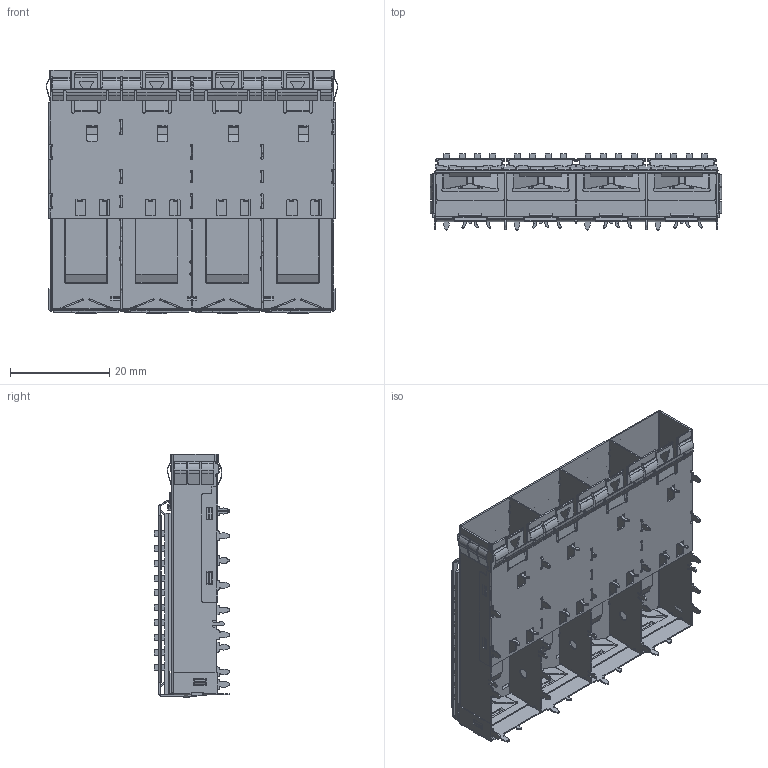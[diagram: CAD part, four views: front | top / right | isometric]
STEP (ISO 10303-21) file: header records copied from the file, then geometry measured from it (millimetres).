
FILE_DESCRIPTION( ('This file contains a STEP AP42 implementation' ,'as created by ZW3D STEP Interface translator.' ,'') ,'2;1' );
FILE_NAME( '¿Í»§3D-10711014W085.stp' ,'25 218.155036', (''), ('ZWCAD Software Co.'), 'Version 1.0', 'ZW3D to STEP translator', '' );
FILE_SCHEMA(('AUTOMOTIVE_DESIGN { 1 0 10303 214 1 1 1 1 }'));
Length unit declared in the file: millimetre
Products named in the file (1): 0
Bounding box: 58.81 x 15.3 x 49.25 mm (x, y, z)
Volume: 5735.4 mm3; surface area: 22376.9 mm2
Topology: 1 solids, 1 shells, 4476 faces, 13721 edges, 9022 vertices
Faces by surface type: plane 2670, cylinder 1782, bspline 24
Entity records: 162217 total; most frequent: CARTESIAN_POINT 34316, ORIENTED_EDGE 27448, DIRECTION 24274, EDGE_CURVE 13724, VECTOR 9448, LINE 9448, VERTEX_POINT 9022, AXIS2_PLACEMENT_3D 7413
